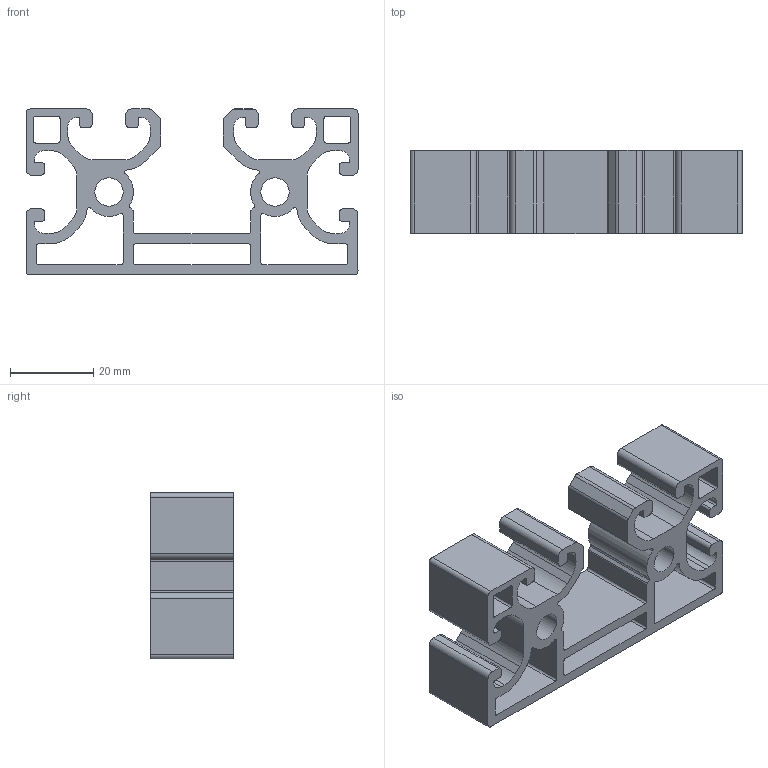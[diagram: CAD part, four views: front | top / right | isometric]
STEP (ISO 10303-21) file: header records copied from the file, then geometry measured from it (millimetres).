
FILE_DESCRIPTION(('STEP AP214'),'1');
FILE_NAME('cctmp_2AA3B239-500C-4AEC-83E5-3B43E18BA29F_2023_05_03_09_01_19_0015_36248..stp','2023-05-03T07:01:19',('item Industrietechnik GmbH'),('CADClick - www.CADClick.com'),'Spatial InterOp 3D',' ','unknown authorization');
FILE_SCHEMA(('AUTOMOTIVE_DESIGN'));
Length unit declared in the file: millimetre
Products named in the file (2): item_0064307_Profile X 8 80x40 2N K15 - XMS_L=20; item_0064307_Profile X 8 80x40 2N K15 - XMS_L=20_1
Assembly tree (1 placements, depth 2):
  item_0064307_Profile X 8 80x40 2N K15 - XMS_L=20
    item_0064307_Profile X 8 80x40 2N K15 - XMS_L=20_1
Bounding box: 80 x 20 x 40 mm (x, y, z)
Volume: 21828.5 mm3; surface area: 18068.9 mm2
Topology: 1 solids, 1 shells, 206 faces, 612 edges, 408 vertices
Faces by surface type: cylinder 110, plane 96
Entity records: 8703 total; most frequent: DIRECTION 1248, CARTESIAN_POINT 1228, ORIENTED_EDGE 1224, EDGE_CURVE 612, AXIS2_PLACEMENT_3D 428, VERTEX_POINT 408, LINE 392, VECTOR 392
